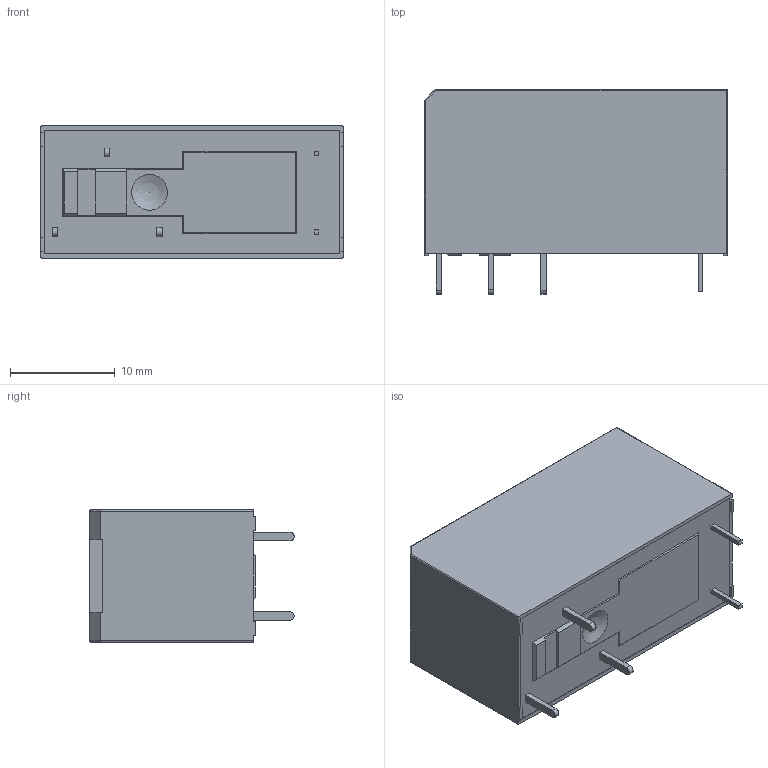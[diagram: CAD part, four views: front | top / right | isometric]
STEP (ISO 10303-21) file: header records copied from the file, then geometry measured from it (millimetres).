
FILE_DESCRIPTION (( 'STEP AP203' ), '1' );
FILE_NAME ('R2G-1C(5.0拻褐) 俋倛.STEP', '2022-12-09T10:15:30', ( '' ), ( '' ), 'SwSTEP 2.0', 'SolidWorks 2018', '' );
FILE_SCHEMA (( 'CONFIG_CONTROL_DESIGN' ));
Length unit declared in the file: millimetre
Products named in the file (1): R2G-1C(5.0拻褐) 俋倛
Bounding box: 28.9 x 19.5 x 12.6 mm (x, y, z)
Volume: 5652.8 mm3; surface area: 2089.8 mm2
Topology: 1 solids, 1 shells, 104 faces, 263 edges, 170 vertices
Faces by surface type: plane 78, cylinder 22, sphere 4
Entity records: 3116 total; most frequent: CARTESIAN_POINT 542, ORIENTED_EDGE 514, DIRECTION 501, EDGE_CURVE 257, VECTOR 215, LINE 215, VERTEX_POINT 168, AXIS2_PLACEMENT_3D 143
